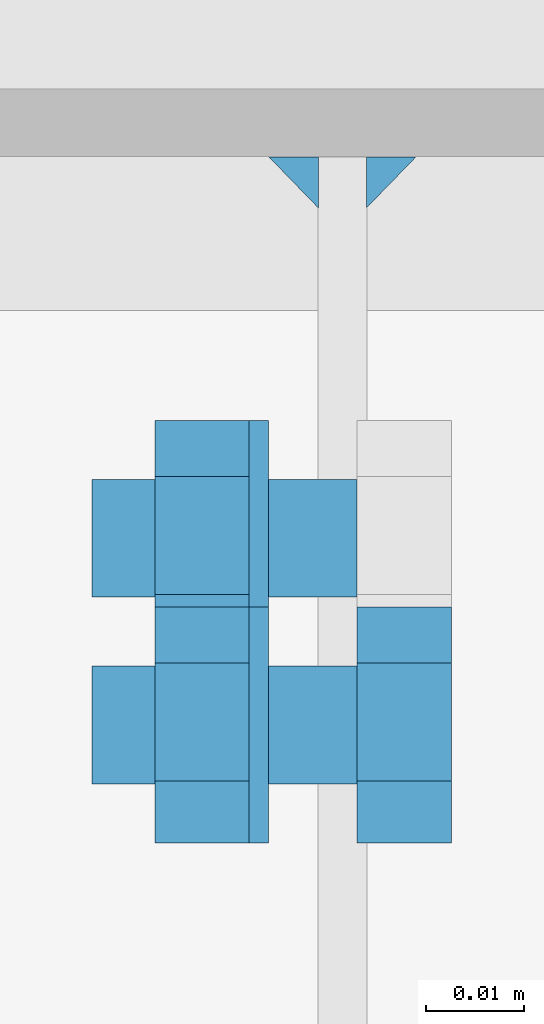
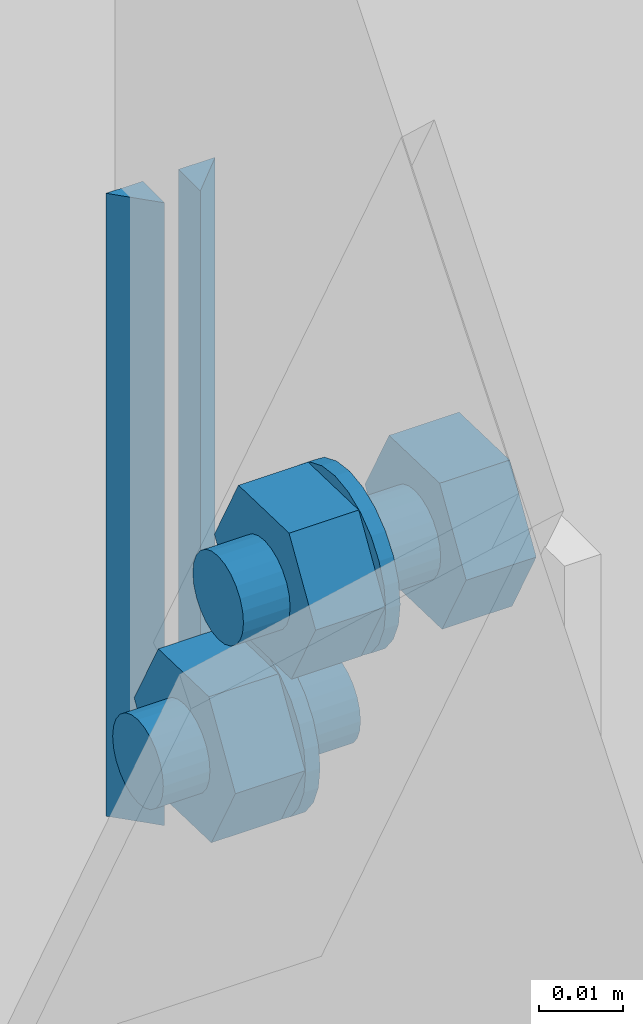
# One storey, part 23 of 29: 7 mechanical fasteners, 2 fasteners.
"""IFC4 building model written with IfcOpenShell, lengths in metres."""

from ifc_helpers import new_model, si_unit, frame, origin_with_axes, place, context, project, spatial, polyline, outline, extrude, type_object, element, save


model = new_model("IFC4")

# Units and contexts
model_context = context("Model", 3, precision=1e-05, world=origin_with_axes())
ifc_project = project(units=[si_unit("LENGTHUNIT", "METRE"), si_unit("AREAUNIT", "SQUARE_METRE"), si_unit("VOLUMEUNIT", "CUBIC_METRE"), si_unit("MASSUNIT", "GRAM", prefix="KILO"), si_unit("TIMEUNIT", "SECOND"), si_unit("PLANEANGLEUNIT", "RADIAN"), si_unit("SOLIDANGLEUNIT", "STERADIAN"), si_unit("THERMODYNAMICTEMPERATUREUNIT", "DEGREE_CELSIUS")], contexts=[model_context])

# Site, building, storey
placement_1 = place(None, origin_with_axes())
site = spatial("IfcSite", under=ifc_project, at=placement_1, Name="Italia", CompositionType="ELEMENT")
building = spatial("IfcBuilding", under=site, at=placement_1, Name="Capannone", CompositionType="ELEMENT")
storey = spatial("IfcBuildingStorey", under=building, at=placement_1, Name="Storey 0", CompositionType="ELEMENT", Elevation=0.0)

# Mechanical fasteners
mechanical_fastener_type_1 = type_object("IfcMechanicalFastenerType", Name="Collegamento 0011_0109", PredefinedType="BOLT")
placement_2 = place(placement_1, origin_with_axes())
mechanical_fastener_1_placement = place(placement_2, origin_with_axes())
element("IfcMechanicalFastener", 1, at=mechanical_fastener_1_placement, inside=storey, type_object=mechanical_fastener_type_1, Name="Collegamento 0011_0109", NominalDiameter=0.012, context=model_context, shape_type="SweptSolid", body=[
    extrude(outline(polyline([(0.0, 0.0), (-0.000204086, -0.00155292), (-0.000802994, -0.003), (-0.00175667, -0.00424264), (-0.00299931, -0.00519615), (-0.00444698, -0.00579555), (-0.00599957, -0.006), (-0.00755215, -0.00579555), (-0.00899982, -0.00519615), (-0.0102425, -0.00424264), (-0.0111961, -0.003), (-0.011795, -0.00155292), (-0.0119991, 0.0), (-0.011795, 0.00155292), (-0.0111961, 0.003), (-0.0102425, 0.00424264), (-0.00899982, 0.00519615), (-0.00755215, 0.00579555), (-0.00599957, 0.006), (-0.00444698, 0.00579555), (-0.00299931, 0.00519615), (-0.00175667, 0.00424264), (-0.000802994, 0.003), (-0.000204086, 0.00155291), (0.0, 0.0)])), frame((-0.019, 14.9637, 0.117557), z_axis=(1.0, 0.0, 0.0), x_axis=(0.0, 1.0, 0.0)), (0.0, 0.0, 1.0), 0.027),
])
mechanical_fastener_type_2 = type_object("IfcMechanicalFastenerType", Name="Collegamento 0011_0109", PredefinedType="BOLT")
mechanical_fastener_2_placement = place(placement_2, origin_with_axes())
element("IfcMechanicalFastener", 2, at=mechanical_fastener_2_placement, inside=storey, type_object=mechanical_fastener_type_2, Name="Collegamento 0011_0109", NominalDiameter=0.0119998, context=model_context, shape_type="SweptSolid", body=[
    extrude(outline(polyline([(0.0, 0.0), (0.00570583, -0.0105565), (0.0177011, -0.010893), (0.0239906, -0.000673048), (0.0182848, 0.00988343), (0.00628948, 0.01022), (0.0, 0.0)])), frame((-0.0126, 14.9457, 0.117893), z_axis=(1.0, 0.0, 0.0), x_axis=(0.0, 1.0, 0.0)), (0.0, 0.0, 1.0), 0.0096),
])
mechanical_fastener_type_3 = type_object("IfcMechanicalFastenerType", Name="Collegamento 0011_0109", PredefinedType="BOLT")
mechanical_fastener_3_placement = place(placement_2, origin_with_axes())
element("IfcMechanicalFastener", 3, at=mechanical_fastener_3_placement, inside=storey, type_object=mechanical_fastener_type_3, Name="Collegamento 0011_0109", NominalDiameter=0.024, context=model_context, shape_type="SweptSolid", body=[
    extrude(outline(polyline([(0.0, 0.0), (-0.000409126, -0.00310583), (-0.00160789, -0.006), (-0.00351524, -0.00848528), (-0.00600052, -0.0103923), (-0.00889397, -0.0115911), (-0.0120001, -0.012), (-0.0151062, -0.0115911), (-0.0179996, -0.0103923), (-0.0204849, -0.00848528), (-0.0223923, -0.006), (-0.023591, -0.00310583), (-0.0240002, 0.0), (-0.023591, 0.00310583), (-0.0223923, 0.006), (-0.0204849, 0.00848529), (-0.0179996, 0.0103923), (-0.0151062, 0.0115911), (-0.0120001, 0.012), (-0.00889397, 0.0115911), (-0.00600052, 0.0103923), (-0.00351524, 0.00848527), (-0.00160789, 0.006), (-0.000409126, 0.00310583), (0.0, 0.0)])), frame((-0.003, 14.9697, 0.117557), z_axis=(1.0, 0.0, 0.0), x_axis=(0.0, 1.0, 0.0)), (0.0, 0.0, 1.0), 0.002),
])
mechanical_fastener_type_4 = type_object("IfcMechanicalFastenerType", Name="Collegamento 0011_0109", PredefinedType="BOLT")
mechanical_fastener_4_placement = place(placement_2, origin_with_axes())
element("IfcMechanicalFastener", 4, at=mechanical_fastener_4_placement, inside=storey, type_object=mechanical_fastener_type_4, Name="Collegamento 0011_0109", NominalDiameter=0.0119997, context=model_context, shape_type="SweptSolid", body=[
    extrude(outline(polyline([(0.0, 0.0), (0.00570679, -0.0105565), (0.0177021, -0.010893), (0.0239906, -0.000673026), (0.0182848, 0.00988345), (0.00628948, 0.01022), (0.0, 0.0)])), frame((0.008, 14.9267, 0.153082), z_axis=(1.0, 0.0, 0.0), x_axis=(0.0, 1.0, 0.0)), (0.0, 0.0, 1.0), 0.0096),
])
mechanical_fastener_type_5 = type_object("IfcMechanicalFastenerType", Name="Collegamento 0011_0109", PredefinedType="BOLT")
mechanical_fastener_5_placement = place(placement_2, origin_with_axes())
element("IfcMechanicalFastener", 5, at=mechanical_fastener_5_placement, inside=storey, type_object=mechanical_fastener_type_5, Name="Collegamento 0011_0109", NominalDiameter=0.012, context=model_context, shape_type="SweptSolid", body=[
    extrude(outline(polyline([(0.0, 0.0), (-0.000204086, -0.00155291), (-0.000802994, -0.00300001), (-0.00175667, -0.00424264), (-0.00299931, -0.00519615), (-0.00444698, -0.00579555), (-0.00599957, -0.006), (-0.00755215, -0.00579555), (-0.00899982, -0.00519615), (-0.0102425, -0.00424264), (-0.0111961, -0.00300001), (-0.011795, -0.00155291), (-0.0119991, 0.0), (-0.011795, 0.00155291), (-0.0111961, 0.00300001), (-0.0102425, 0.00424264), (-0.00899982, 0.00519615), (-0.00755215, 0.00579555), (-0.00599957, 0.006), (-0.00444698, 0.00579555), (-0.00299931, 0.00519615), (-0.00175667, 0.00424264), (-0.000802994, 0.00300001), (-0.000204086, 0.00155291), (0.0, 0.0)])), frame((-0.019, 14.9447, 0.152745), z_axis=(1.0, 0.0, 0.0), x_axis=(0.0, 1.0, 0.0)), (0.0, 0.0, 1.0), 0.027),
])
mechanical_fastener_type_6 = type_object("IfcMechanicalFastenerType", Name="Collegamento 0011_0109", PredefinedType="BOLT")
mechanical_fastener_6_placement = place(placement_2, origin_with_axes())
element("IfcMechanicalFastener", 6, at=mechanical_fastener_6_placement, inside=storey, type_object=mechanical_fastener_type_6, Name="Collegamento 0011_0109", NominalDiameter=0.0119997, context=model_context, shape_type="SweptSolid", body=[
    extrude(outline(polyline([(0.0, 0.0), (0.00570679, -0.0105565), (0.0177021, -0.010893), (0.0239906, -0.000673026), (0.0182848, 0.00988345), (0.00628948, 0.01022), (0.0, 0.0)])), frame((-0.0126, 14.9267, 0.153082), z_axis=(1.0, 0.0, 0.0), x_axis=(0.0, 1.0, 0.0)), (0.0, 0.0, 1.0), 0.0096),
])
mechanical_fastener_type_7 = type_object("IfcMechanicalFastenerType", Name="Collegamento 0011_0109", PredefinedType="BOLT")
mechanical_fastener_7_placement = place(placement_2, origin_with_axes())
element("IfcMechanicalFastener", 7, at=mechanical_fastener_7_placement, inside=storey, type_object=mechanical_fastener_type_7, Name="Collegamento 0011_0109", NominalDiameter=0.024, context=model_context, shape_type="SweptSolid", body=[
    extrude(outline(polyline([(0.0, 0.0), (-0.000409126, -0.00310583), (-0.00160789, -0.006), (-0.00351524, -0.00848529), (-0.00600052, -0.0103923), (-0.00889397, -0.0115911), (-0.0120001, -0.012), (-0.0151062, -0.0115911), (-0.0179996, -0.0103923), (-0.0204849, -0.00848529), (-0.0223923, -0.006), (-0.023591, -0.00310583), (-0.0240002, 0.0), (-0.023591, 0.00310583), (-0.0223923, 0.006), (-0.0204849, 0.00848529), (-0.0179996, 0.0103923), (-0.0151062, 0.0115911), (-0.0120001, 0.012), (-0.00889397, 0.0115911), (-0.00600052, 0.0103923), (-0.00351524, 0.00848527), (-0.00160789, 0.006), (-0.000409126, 0.00310582), (0.0, 0.0)])), frame((-0.003, 14.9507, 0.152745), z_axis=(1.0, 0.0, 0.0), x_axis=(0.0, 1.0, 0.0)), (0.0, 0.0, 1.0), 0.002),
])

# Fasteners
fastener_type_1 = type_object("IfcFastenerType", Name="Collegamento 0011_0109", PredefinedType="WELD")
fastener_1_placement = place(placement_2, origin_with_axes())
element("IfcFastener", 8, at=fastener_1_placement, inside=storey, type_object=fastener_type_1, Name="Collegamento 0011_0109", context=model_context, shape_type="SweptSolid", body=[
    extrude(outline(polyline([(0.0, 0.0), (-0.00517273, 0.00501816), (0.0, 0.00501816), (0.0, 0.0)])), frame((-0.000968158, 14.9965, 0.169877), z_axis=(0.0, 0.0, -1.0), x_axis=(0.0, 1.0, 0.0)), (0.0, 0.0, 1.0), 0.0900994),
])
fastener_type_2 = type_object("IfcFastenerType", Name="Collegamento 0011_0109", PredefinedType="WELD")
fastener_2_placement = place(placement_2, origin_with_axes())
element("IfcFastener", 9, at=fastener_2_placement, inside=storey, type_object=fastener_type_2, Name="Collegamento 0011_0109", context=model_context, shape_type="SweptSolid", body=[
    extrude(outline(polyline([(0.0, 0.0), (-0.00517273, 0.00501816), (0.0, 0.00501816), (0.0, 0.0)])), frame((0.0139682, 14.9965, 0.0797772), z_axis=(0.0, 0.0, 1.0), x_axis=(0.0, 1.0, 0.0)), (0.0, 0.0, 1.0), 0.0900994),
])

save(model, "model.ifc")
